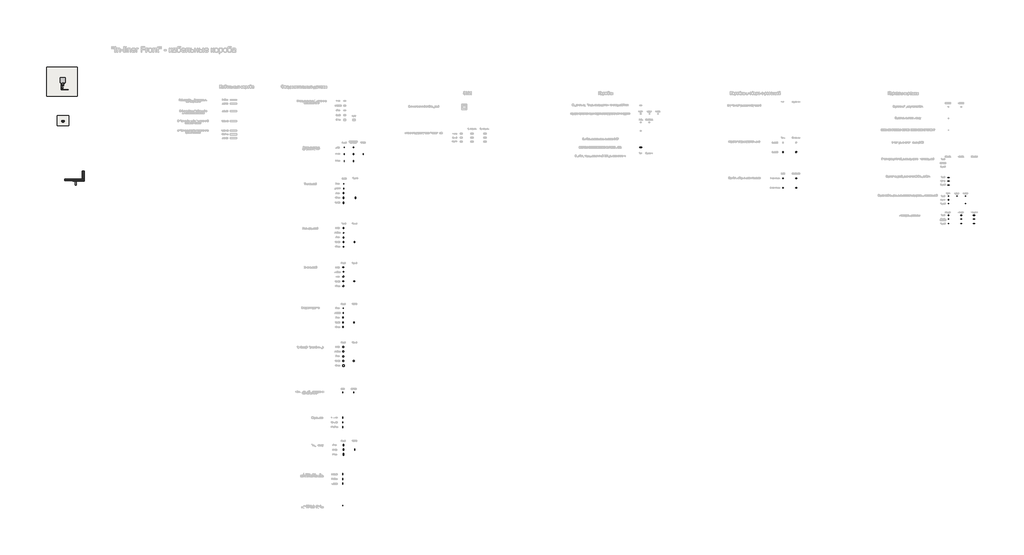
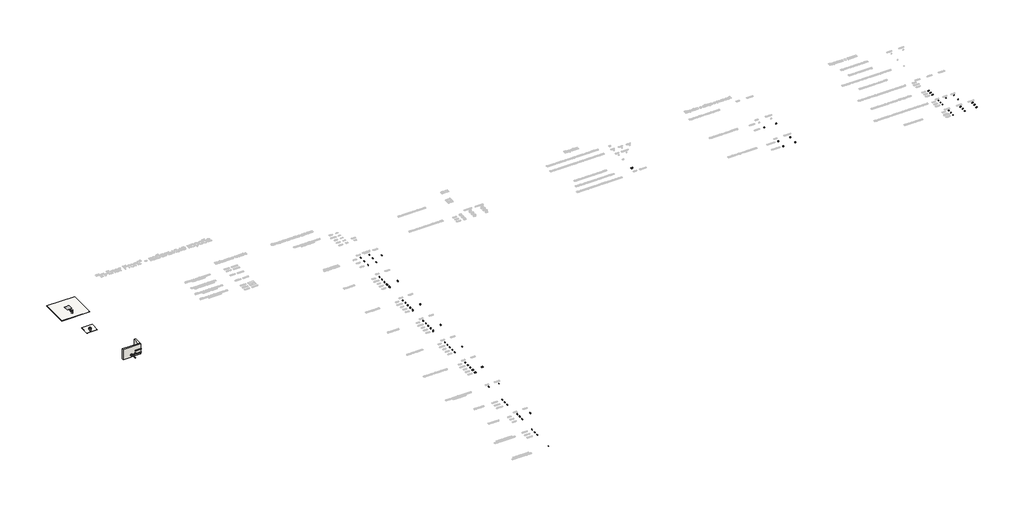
# One storey, part 1 of 48: 56 cable carrier fittings, 56 proxies, 9 cable carrier segments, 2 slabs, 2 walls.
"""IFC4 building model written with IfcOpenShell, lengths in millimetres."""

from ifc_helpers import new_model, si_unit, frame, origin, origin_with_axes, place, context, project, spatial, polyline, outline, extrude, faceted_brep, transform, mapped, element, save
from components import electrical_fixtures_2044470d, electrical_fixtures_432b87b8, electrical_fixtures_e2bc58bc, electrical_fixtures_5537c3a0, electrical_fixtures_9115882a, electrical_fixtures_66c558c8, electrical_fixtures_8c2a11af, electrical_fixtures_6e8f248d, electrical_fixtures_535c511b, electrical_fixtures_a8bc6f34, electrical_fixtures_416891ac, electrical_fixtures_630f2619, electrical_fixtures_1e663ce1, electrical_fixtures_13d03f2a, electrical_fixtures_4c8f32d7, electrical_fixtures_da566cea, electrical_fixtures_8b170cca, electrical_fixtures_24f5e3a6, electrical_fixtures_1d311426, electrical_fixtures_f8ef05b3, proxy_45x45_73356a26, viva_5f314de5, cable_carrier_fitting_01e7652f, cable_carrier_fitting_b5b63672, cable_carrier_fitting_38cc83f5, cable_carrier_fitting_9fc0aa68, cable_carrier_fitting_aa272796, cable_carrier_fitting_2b1ad8d1, cable_carrier_fitting_4f6a67a4, cable_carrier_fitting_6db34369, cable_carrier_fitting_e92eef1a, cable_carrier_fitting_01ff78f4, cable_carrier_fitting_454d221a, cable_carrier_fitting_19747507, cable_carrier_fitting_1869ba21, cable_carrier_fitting_19bac6f4, cable_carrier_fitting_ebdb16b8, cable_carrier_fitting_70ad5371, cable_carrier_fitting_acbd40a6, cable_carrier_fitting_fb1314e3, cable_carrier_fitting_0515663b, cable_carrier_fitting_db63f999, cable_carrier_fitting_5d25004a, cable_carrier_fitting_70b8df70, cable_carrier_fitting_208f4170, cable_carrier_fitting_06068482, cable_carrier_fitting_9637789e, cable_carrier_fitting_83c308d7, cable_carrier_fitting_42b9134f, cable_carrier_fitting_e4d7804b, cable_carrier_fitting_0c0028f7, cable_carrier_fitting_1a116adf, cable_carrier_fitting_51014b7c, cable_carrier_fitting_3fa0959f, cable_carrier_fitting_b9845bec, cable_carrier_fitting_f882d0d2, cable_carrier_fitting_94e5b95d, cable_carrier_fitting_8765ebe6, cable_carrier_fitting_30d2fbf1, cable_carrier_fitting_d3d0ba5e, cable_carrier_fitting_2694b6d5, cable_carrier_fitting_6e8eea5a

model = new_model("IFC4")

# Units and contexts
model_context = context("Model", 3, world=origin())
ifc_project = project(units=[si_unit("LENGTHUNIT", "METRE", prefix="MILLI")], contexts=[model_context])

# Site, building, storey
site = spatial("IfcSite", under=ifc_project)
building = spatial("IfcBuilding", under=site)
storey = spatial("IfcBuildingStorey", under=building, Name="Этаж 01", Elevation=0.0)

# Proxies
placement = place(None, origin())
electrical_fixtures_shape = electrical_fixtures_2044470d(model_context)
element("IfcBuildingElementProxy", 1, Name="КНС_КоробкаМонтажнаяПод4МодуляЭлектроустановочныхИзделийPDD-N120_ILF_DKC : Белая", ObjectType="КНС_КоробкаМонтажнаяПод4МодуляЭлектроустановочныхИзделийPDD-N120_ILF_DKC : Белая", at=placement, inside=storey, context=model_context, shape_type="MappedRepresentation", body=[
    mapped(electrical_fixtures_shape, transform((-15207.2658098, -3998.2892597, 350.0), x_axis=(1.0, 0.0, 0.0), y_axis=(0.0, 1.0, 0.0), z_axis=(0.0, 0.0, 1.0))),
])
electrical_fixtures_2_shape = electrical_fixtures_432b87b8(model_context)
element("IfcBuildingElementProxy", 2, Name="КНС_Каркас6МодулейДляМонтажаЭУИСерииViva_ILF_DKC : Белый", ObjectType="КНС_Каркас6МодулейДляМонтажаЭУИСерииViva_ILF_DKC : Белый", at=placement, inside=storey, context=model_context, shape_type="MappedRepresentation", body=[
    mapped(electrical_fixtures_2_shape, transform((77296.5462784, -3601.6304054, 0.0), x_axis=(1.0, 0.0, 0.0), y_axis=(0.0, 1.0, 0.0), z_axis=(0.0, 0.0, 1.0))),
])
element("IfcBuildingElementProxy", 3, Name="КНС_Каркас6МодулейДляМонтажаЭУИСерииViva_ILF_DKC : Серый", ObjectType="КНС_Каркас6МодулейДляМонтажаЭУИСерииViva_ILF_DKC : Серый", at=placement, inside=storey, context=model_context, shape_type="MappedRepresentation", body=[
    mapped(electrical_fixtures_2_shape, transform((77296.5462784, -3992.3363711, 0.0), x_axis=(1.0, 0.0, 0.0), y_axis=(0.0, 1.0, 0.0), z_axis=(0.0, 0.0, 1.0))),
])
element("IfcBuildingElementProxy", 4, Name="КНС_Каркас6МодулейДляМонтажаЭУИСерииViva_ILF_DKC : Черный", ObjectType="КНС_Каркас6МодулейДляМонтажаЭУИСерииViva_ILF_DKC : Черный", at=placement, inside=storey, context=model_context, shape_type="MappedRepresentation", body=[
    mapped(electrical_fixtures_2_shape, transform((77296.5462784, -4402.3363711, 0.0), x_axis=(1.0, 0.0, 0.0), y_axis=(0.0, 1.0, 0.0), z_axis=(0.0, 0.0, 1.0))),
])
electrical_fixtures_3_shape = electrical_fixtures_e2bc58bc(model_context)
element("IfcBuildingElementProxy", 5, Name="КНС_КаркасНа2МодуляДляМонтажаЭлектроустановочныхИзделий_ILF_DKC : Brava", ObjectType="КНС_КаркасНа2МодуляДляМонтажаЭлектроустановочныхИзделий_ILF_DKC : Brava", at=placement, inside=storey, context=model_context, shape_type="MappedRepresentation", body=[
    mapped(electrical_fixtures_3_shape, transform((79110.5043711, -6391.3361675, 0.0), x_axis=(1.0, 0.0, 0.0), y_axis=(0.0, 1.0, 0.0), z_axis=(0.0, 0.0, 1.0))),
])
electrical_fixtures_4_shape = electrical_fixtures_5537c3a0(model_context)
element("IfcBuildingElementProxy", 6, Name="КНС_КоробкаВСбореСВыключателями_ILF_DKC : Белая", ObjectType="КНС_КоробкаВСбореСВыключателями_ILF_DKC : Белая", at=placement, inside=storey, context=model_context, shape_type="MappedRepresentation", body=[
    mapped(electrical_fixtures_4_shape, transform((59727.9064878, -3699.5059301, 0.0), x_axis=(1.0, 0.0, 0.0), y_axis=(0.0, 1.0, 0.0), z_axis=(0.0, 0.0, 1.0))),
])
element("IfcBuildingElementProxy", 7, Name="КНС_КоробкаВСбореСВыключателями_ILF_DKC : Коричневая", ObjectType="КНС_КоробкаВСбореСВыключателями_ILF_DKC : Коричневая", at=placement, inside=storey, context=model_context, shape_type="MappedRepresentation", body=[
    mapped(electrical_fixtures_4_shape, transform((61127.9064878, -3699.5059301, 0.0), x_axis=(1.0, 0.0, 0.0), y_axis=(0.0, 1.0, 0.0), z_axis=(0.0, 0.0, 1.0))),
])
electrical_fixtures_5_shape = electrical_fixtures_9115882a(model_context)
element("IfcBuildingElementProxy", 8, Name="КНС_КоробкаМонтажнаяПод2МодуляЭлектроустановочныхИзделийPDD-N60_ILF_DKC : Белая", ObjectType="КНС_КоробкаМонтажнаяПод2МодуляЭлектроустановочныхИзделийPDD-N60_ILF_DKC : Белая", at=placement, inside=storey, context=model_context, shape_type="MappedRepresentation", body=[
    mapped(electrical_fixtures_5_shape, transform((-15645.9658098, -3998.2892597, 350.0), x_axis=(1.0, 0.0, 0.0), y_axis=(0.0, 1.0, 0.0), z_axis=(0.0, 0.0, 1.0))),
])
electrical_fixtures_6_shape = electrical_fixtures_66c558c8(model_context)
element("IfcBuildingElementProxy", 9, Name="КНС_РамкаУниверсальная_ILF_DKC : 2 модуля", ObjectType="КНС_РамкаУниверсальная_ILF_DKC : 2 модуля", at=placement, inside=storey, context=model_context, shape_type="MappedRepresentation", body=[
    mapped(electrical_fixtures_6_shape, transform((77304.4662282, -7638.6393082, 0.0), x_axis=(1.0, 0.0, 0.0), y_axis=(0.0, 1.0, 0.0), z_axis=(0.0, 0.0, 1.0))),
])
electrical_fixtures_7_shape = electrical_fixtures_8c2a11af(model_context)
element("IfcBuildingElementProxy", 10, Name="КНС_РамкаУниверсальная_ILF_DKC : 6 модулей", ObjectType="КНС_РамкаУниверсальная_ILF_DKC : 6 модулей", at=placement, inside=storey, context=model_context, shape_type="MappedRepresentation", body=[
    mapped(electrical_fixtures_7_shape, transform((80040.6325444, -8059.0106411, 0.0), x_axis=(1.0, 0.0, 0.0), y_axis=(0.0, 1.0, 0.0), z_axis=(0.0, 0.0, 1.0))),
])
electrical_fixtures_8_shape = electrical_fixtures_6e8f248d(model_context)
element("IfcBuildingElementProxy", 11, Name="Силовые электрические розетки, штекерные, с заземлением и со шторками : Белый", ObjectType="Силовые электрические розетки, штекерные, с заземлением и со шторками : Белый", at=placement, inside=storey, context=model_context, shape_type="MappedRepresentation", body=[
    mapped(electrical_fixtures_8_shape, transform((-15645.9658098, -3958.9892597, 350.0), x_axis=(1.0, 0.0, 0.0), y_axis=(0.0, 1.0, 0.0), z_axis=(0.0, 0.0, 1.0))),
])
element("IfcBuildingElementProxy", 12, Name="Силовые электрические розетки, штекерные, с заземлением и со шторками : Белый", ObjectType="Силовые электрические розетки, штекерные, с заземлением и со шторками : Белый", at=placement, inside=storey, context=model_context, shape_type="MappedRepresentation", body=[
    mapped(electrical_fixtures_8_shape, transform((-15233.5158098, -3958.9892597, 350.0), x_axis=(1.0, 0.0, 0.0), y_axis=(0.0, 1.0, 0.0), z_axis=(0.0, 0.0, 1.0))),
])
electrical_fixtures_9_shape = electrical_fixtures_535c511b(model_context)
element("IfcBuildingElementProxy", 13, Name="Переключатели : 2 модуля", ObjectType="Переключатели : 2 модуля", at=placement, inside=storey, context=model_context, shape_type="MappedRepresentation", body=[
    mapped(electrical_fixtures_9_shape, transform((-15181.7658098, -3970.8892597, 350.0), x_axis=(1.0, 0.0, 0.0), y_axis=(0.0, 1.0, 0.0), z_axis=(0.0, 0.0, 1.0))),
])
electrical_fixtures_10_shape = electrical_fixtures_a8bc6f34(model_context)
element("IfcBuildingElementProxy", 14, Name="Компьютерные розетки : Категория 5e", ObjectType="Компьютерные розетки : Категория 5e", at=placement, inside=storey, context=model_context, shape_type="MappedRepresentation", body=[
    mapped(electrical_fixtures_10_shape, transform((-16797.23976, 2337.6904128, 56.875), x_axis=(1.0, 0.0, 0.0), y_axis=(0.0, 1.0, 0.0), z_axis=(0.0, 0.0, 1.0))),
])
element("IfcBuildingElementProxy", 15, Name="Компьютерные розетки : Категория 5e", ObjectType="Компьютерные розетки : Категория 5e", at=placement, inside=storey, context=model_context, shape_type="MappedRepresentation", body=[
    mapped(electrical_fixtures_10_shape, transform((-16775.23976, 2337.6904128, 56.875), x_axis=(1.0, 0.0, 0.0), y_axis=(0.0, 1.0, 0.0), z_axis=(0.0, 0.0, 1.0))),
])
element("IfcBuildingElementProxy", 16, Name="Компьютерные розетки : Категория 5e", ObjectType="Компьютерные розетки : Категория 5e", at=placement, inside=storey, context=model_context, shape_type="MappedRepresentation", body=[
    mapped(electrical_fixtures_10_shape, transform((-16744.23976, 2337.6904128, 56.875), x_axis=(1.0, 0.0, 0.0), y_axis=(0.0, 1.0, 0.0), z_axis=(0.0, 0.0, 1.0))),
])
element("IfcBuildingElementProxy", 17, Name="Компьютерные розетки : Категория 5e", ObjectType="Компьютерные розетки : Категория 5e", at=placement, inside=storey, context=model_context, shape_type="MappedRepresentation", body=[
    mapped(electrical_fixtures_10_shape, transform((-16722.23976, 2337.6904128, 56.875), x_axis=(1.0, 0.0, 0.0), y_axis=(0.0, 1.0, 0.0), z_axis=(0.0, 0.0, 1.0))),
])
element("IfcBuildingElementProxy", 18, Name="Компьютерные розетки : Категория 5e", ObjectType="Компьютерные розетки : Категория 5e", at=placement, inside=storey, context=model_context, shape_type="MappedRepresentation", body=[
    mapped(electrical_fixtures_10_shape, transform((-16850.23976, 2337.6904128, 56.875), x_axis=(1.0, 0.0, 0.0), y_axis=(0.0, 1.0, 0.0), z_axis=(0.0, 0.0, 1.0))),
])
element("IfcBuildingElementProxy", 19, Name="Компьютерные розетки : Категория 5e", ObjectType="Компьютерные розетки : Категория 5e", at=placement, inside=storey, context=model_context, shape_type="MappedRepresentation", body=[
    mapped(electrical_fixtures_10_shape, transform((-16828.23976, 2337.6904128, 56.875), x_axis=(1.0, 0.0, 0.0), y_axis=(0.0, 1.0, 0.0), z_axis=(0.0, 0.0, 1.0))),
])
electrical_fixtures_11_shape = electrical_fixtures_416891ac(model_context)
element("IfcBuildingElementProxy", 20, Name="Суппорт для монтажа ЭУИ серии Viva на DIN-рейку или монтажную плату1 : 1 модуль 2", ObjectType="Суппорт для монтажа ЭУИ серии Viva на DIN-рейку или монтажную плату1 : 1 модуль 2", at=placement, inside=storey, context=model_context, shape_type="MappedRepresentation", body=[
    mapped(electrical_fixtures_11_shape, transform((-16797.23976, 2325.6904128, 56.875), x_axis=(1.0, 0.0, 0.0), y_axis=(0.0, 1.0, 0.0), z_axis=(0.0, 0.0, 1.0))),
])
element("IfcBuildingElementProxy", 21, Name="Суппорт для монтажа ЭУИ серии Viva на DIN-рейку или монтажную плату1 : 1 модуль 2", ObjectType="Суппорт для монтажа ЭУИ серии Viva на DIN-рейку или монтажную плату1 : 1 модуль 2", at=placement, inside=storey, context=model_context, shape_type="MappedRepresentation", body=[
    mapped(electrical_fixtures_11_shape, transform((-16775.23976, 2325.6904128, 56.875), x_axis=(1.0, 0.0, 0.0), y_axis=(0.0, 1.0, 0.0), z_axis=(0.0, 0.0, 1.0))),
])
element("IfcBuildingElementProxy", 22, Name="Суппорт для монтажа ЭУИ серии Viva на DIN-рейку или монтажную плату1 : 1 модуль 2", ObjectType="Суппорт для монтажа ЭУИ серии Viva на DIN-рейку или монтажную плату1 : 1 модуль 2", at=placement, inside=storey, context=model_context, shape_type="MappedRepresentation", body=[
    mapped(electrical_fixtures_11_shape, transform((-16744.23976, 2325.6904128, 56.875), x_axis=(1.0, 0.0, 0.0), y_axis=(0.0, 1.0, 0.0), z_axis=(0.0, 0.0, 1.0))),
])
element("IfcBuildingElementProxy", 23, Name="Суппорт для монтажа ЭУИ серии Viva на DIN-рейку или монтажную плату1 : 1 модуль 2", ObjectType="Суппорт для монтажа ЭУИ серии Viva на DIN-рейку или монтажную плату1 : 1 модуль 2", at=placement, inside=storey, context=model_context, shape_type="MappedRepresentation", body=[
    mapped(electrical_fixtures_11_shape, transform((-16722.23976, 2325.6904128, 56.875), x_axis=(1.0, 0.0, 0.0), y_axis=(0.0, 1.0, 0.0), z_axis=(0.0, 0.0, 1.0))),
])
element("IfcBuildingElementProxy", 24, Name="Суппорт для монтажа ЭУИ серии Viva на DIN-рейку или монтажную плату1 : 1 модуль 2", ObjectType="Суппорт для монтажа ЭУИ серии Viva на DIN-рейку или монтажную плату1 : 1 модуль 2", at=placement, inside=storey, context=model_context, shape_type="MappedRepresentation", body=[
    mapped(electrical_fixtures_11_shape, transform((-16850.23976, 2325.6904128, 56.875), x_axis=(1.0, 0.0, 0.0), y_axis=(0.0, 1.0, 0.0), z_axis=(0.0, 0.0, 1.0))),
])
element("IfcBuildingElementProxy", 25, Name="Суппорт для монтажа ЭУИ серии Viva на DIN-рейку или монтажную плату1 : 1 модуль 2", ObjectType="Суппорт для монтажа ЭУИ серии Viva на DIN-рейку или монтажную плату1 : 1 модуль 2", at=placement, inside=storey, context=model_context, shape_type="MappedRepresentation", body=[
    mapped(electrical_fixtures_11_shape, transform((-16828.23976, 2325.6904128, 56.875), x_axis=(1.0, 0.0, 0.0), y_axis=(0.0, 1.0, 0.0), z_axis=(0.0, 0.0, 1.0))),
])
element("IfcBuildingElementProxy", 26, Name="Суппорт для монтажа ЭУИ серии Viva на DIN-рейку или монтажную плату1 : 1 модуль 2", ObjectType="Суппорт для монтажа ЭУИ серии Viva на DIN-рейку или монтажную плату1 : 1 модуль 2", at=placement, inside=storey, context=model_context, shape_type="MappedRepresentation", body=[
    mapped(electrical_fixtures_11_shape, transform((-16797.23976, 2325.6904128, 127.875), x_axis=(1.0, 0.0, 0.0), y_axis=(0.0, 1.0, 0.0), z_axis=(0.0, 0.0, 1.0))),
])
element("IfcBuildingElementProxy", 27, Name="Суппорт для монтажа ЭУИ серии Viva на DIN-рейку или монтажную плату1 : 1 модуль 2", ObjectType="Суппорт для монтажа ЭУИ серии Viva на DIN-рейку или монтажную плату1 : 1 модуль 2", at=placement, inside=storey, context=model_context, shape_type="MappedRepresentation", body=[
    mapped(electrical_fixtures_11_shape, transform((-16775.23976, 2325.6904128, 127.875), x_axis=(1.0, 0.0, 0.0), y_axis=(0.0, 1.0, 0.0), z_axis=(0.0, 0.0, 1.0))),
])
element("IfcBuildingElementProxy", 28, Name="Суппорт для монтажа ЭУИ серии Viva на DIN-рейку или монтажную плату1 : 1 модуль 2", ObjectType="Суппорт для монтажа ЭУИ серии Viva на DIN-рейку или монтажную плату1 : 1 модуль 2", at=placement, inside=storey, context=model_context, shape_type="MappedRepresentation", body=[
    mapped(electrical_fixtures_11_shape, transform((-16744.23976, 2325.6904128, 127.875), x_axis=(1.0, 0.0, 0.0), y_axis=(0.0, 1.0, 0.0), z_axis=(0.0, 0.0, 1.0))),
])
electrical_fixtures_12_shape = electrical_fixtures_630f2619(model_context)
element("IfcBuildingElementProxy", 29, Name="Компьютерные розетки : Категория 5e", ObjectType="Компьютерные розетки : Категория 5e", at=placement, inside=storey, context=model_context, shape_type="MappedRepresentation", body=[
    mapped(electrical_fixtures_12_shape, transform((-16797.23976, 2337.6904128, 127.875), x_axis=(1.0, 0.0, 0.0), y_axis=(0.0, 1.0, 0.0), z_axis=(0.0, 0.0, 1.0))),
])
element("IfcBuildingElementProxy", 30, Name="Компьютерные розетки : Категория 5e", ObjectType="Компьютерные розетки : Категория 5e", at=placement, inside=storey, context=model_context, shape_type="MappedRepresentation", body=[
    mapped(electrical_fixtures_12_shape, transform((-16775.23976, 2337.6904128, 127.875), x_axis=(1.0, 0.0, 0.0), y_axis=(0.0, 1.0, 0.0), z_axis=(0.0, 0.0, 1.0))),
])
element("IfcBuildingElementProxy", 31, Name="Компьютерные розетки : Категория 5e", ObjectType="Компьютерные розетки : Категория 5e", at=placement, inside=storey, context=model_context, shape_type="MappedRepresentation", body=[
    mapped(electrical_fixtures_12_shape, transform((-16744.23976, 2337.6904128, 127.875), x_axis=(1.0, 0.0, 0.0), y_axis=(0.0, 1.0, 0.0), z_axis=(0.0, 0.0, 1.0))),
])
electrical_fixtures_13_shape = electrical_fixtures_1e663ce1(model_context)
element("IfcBuildingElementProxy", 32, Name="КНС_КоробкаРаспределительнаяНастеннаяBrava_ILF_DKC : Коробка распределительная настенная Brava_ILF_DKC", ObjectType="КНС_КоробкаРаспределительнаяНастеннаяBrava_ILF_DKC : Коробка распределительная настенная Brava_ILF_DKC", at=placement, inside=storey, context=model_context, shape_type="MappedRepresentation", body=[
    mapped(electrical_fixtures_13_shape, transform((44616.8932526, -396.8833124, 0.0), x_axis=(1.0, 0.0, 0.0), y_axis=(0.0, 1.0, 0.0), z_axis=(0.0, 0.0, 1.0))),
])
electrical_fixtures_14_shape = electrical_fixtures_13d03f2a(model_context)
element("IfcBuildingElementProxy", 33, Name="КНС_КоробкаВСбореСРозеткойRJ-45_ILF_DKC : Коричневая", ObjectType="КНС_КоробкаВСбореСРозеткойRJ-45_ILF_DKC : Коричневая", at=placement, inside=storey, context=model_context, shape_type="MappedRepresentation", body=[
    mapped(electrical_fixtures_14_shape, transform((61127.9064878, -880.0316513, 0.0), x_axis=(1.0, 0.0, 0.0), y_axis=(0.0, 1.0, 0.0), z_axis=(0.0, 0.0, 1.0))),
])
element("IfcBuildingElementProxy", 34, Name="КНС_КоробкаВСбореСРозеткойRJ-45_ILF_DKC : Белая", ObjectType="КНС_КоробкаВСбореСРозеткойRJ-45_ILF_DKC : Белая", at=placement, inside=storey, context=model_context, shape_type="MappedRepresentation", body=[
    mapped(electrical_fixtures_14_shape, transform((59727.9064878, -880.0316513, 0.0), x_axis=(1.0, 0.0, 0.0), y_axis=(0.0, 1.0, 0.0), z_axis=(0.0, 0.0, 1.0))),
])
element("IfcBuildingElementProxy", 35, Name="КНС_КоробкаВСбореСВыключателями_ILF_DKC : Коричневая", ObjectType="КНС_КоробкаВСбореСВыключателями_ILF_DKC : Коричневая", at=placement, inside=storey, context=model_context, shape_type="MappedRepresentation", body=[
    mapped(electrical_fixtures_4_shape, transform((61127.9064878, -4692.4294885, 0.0), x_axis=(1.0, 0.0, 0.0), y_axis=(0.0, 1.0, 0.0), z_axis=(0.0, 0.0, 1.0))),
])
element("IfcBuildingElementProxy", 36, Name="КНС_КоробкаВСбореСВыключателями_ILF_DKC : Белая", ObjectType="КНС_КоробкаВСбореСВыключателями_ILF_DKC : Белая", at=placement, inside=storey, context=model_context, shape_type="MappedRepresentation", body=[
    mapped(electrical_fixtures_4_shape, transform((59727.9064878, -4692.4294885, 0.0), x_axis=(1.0, 0.0, 0.0), y_axis=(0.0, 1.0, 0.0), z_axis=(0.0, 0.0, 1.0))),
])
element("IfcBuildingElementProxy", 37, Name="КНС_КаркасНа2МодуляДляМонтажаЭлектроустановочныхИзделий_ILF_DKC : Brava", ObjectType="КНС_КаркасНа2МодуляДляМонтажаЭлектроустановочныхИзделий_ILF_DKC : Brava", at=placement, inside=storey, context=model_context, shape_type="MappedRepresentation", body=[
    mapped(electrical_fixtures_3_shape, transform((79110.5043711, -5568.3806617, 0.0), x_axis=(1.0, 0.0, 0.0), y_axis=(0.0, 1.0, 0.0), z_axis=(0.0, 0.0, 1.0))),
])
electrical_fixtures_15_shape = electrical_fixtures_4c8f32d7(model_context)
element("IfcBuildingElementProxy", 38, Name="КНС_РамкаУниверсальная_ILF_DKC : 2 модуля", ObjectType="КНС_РамкаУниверсальная_ILF_DKC : 2 модуля", at=placement, inside=storey, context=model_context, shape_type="MappedRepresentation", body=[
    mapped(electrical_fixtures_15_shape, transform((77304.4662282, -8059.0106411, 0.0), x_axis=(1.0, 0.0, 0.0), y_axis=(0.0, 1.0, 0.0), z_axis=(0.0, 0.0, 1.0))),
])
element("IfcBuildingElementProxy", 39, Name="КНС_РамкаУниверсальная_ILF_DKC : 2 модуля", ObjectType="КНС_РамкаУниверсальная_ILF_DKC : 2 модуля", at=placement, inside=storey, context=model_context, shape_type="MappedRepresentation", body=[
    mapped(electrical_fixtures_15_shape, transform((77304.4662282, -8514.4303667, 0.0), x_axis=(1.0, 0.0, 0.0), y_axis=(0.0, 1.0, 0.0), z_axis=(0.0, 0.0, 1.0))),
])
electrical_fixtures_16_shape = electrical_fixtures_da566cea(model_context)
element("IfcBuildingElementProxy", 40, Name="КНС_РамкаУниверсальная_ILF_DKC : 4 модуля", ObjectType="КНС_РамкаУниверсальная_ILF_DKC : 4 модуля", at=placement, inside=storey, context=model_context, shape_type="MappedRepresentation", body=[
    mapped(electrical_fixtures_16_shape, transform((78674.7265173, -7638.6393082, 0.0), x_axis=(1.0, 0.0, 0.0), y_axis=(0.0, 1.0, 0.0), z_axis=(0.0, 0.0, 1.0))),
])
electrical_fixtures_17_shape = electrical_fixtures_8b170cca(model_context)
element("IfcBuildingElementProxy", 41, Name="КНС_РамкаУниверсальная_ILF_DKC : 4 модуля", ObjectType="КНС_РамкаУниверсальная_ILF_DKC : 4 модуля", at=placement, inside=storey, context=model_context, shape_type="MappedRepresentation", body=[
    mapped(electrical_fixtures_17_shape, transform((78674.7265173, -8059.0106411, 0.0), x_axis=(1.0, 0.0, 0.0), y_axis=(0.0, 1.0, 0.0), z_axis=(0.0, 0.0, 1.0))),
])
element("IfcBuildingElementProxy", 42, Name="КНС_РамкаУниверсальная_ILF_DKC : 4 модуля", ObjectType="КНС_РамкаУниверсальная_ILF_DKC : 4 модуля", at=placement, inside=storey, context=model_context, shape_type="MappedRepresentation", body=[
    mapped(electrical_fixtures_17_shape, transform((78674.7265173, -8514.4303667, 0.0), x_axis=(1.0, 0.0, 0.0), y_axis=(0.0, 1.0, 0.0), z_axis=(0.0, 0.0, 1.0))),
])
electrical_fixtures_18_shape = electrical_fixtures_24f5e3a6(model_context)
element("IfcBuildingElementProxy", 43, Name="КНС_РамкаУниверсальная_ILF_DKC : 6 модулей", ObjectType="КНС_РамкаУниверсальная_ILF_DKC : 6 модулей", at=placement, inside=storey, context=model_context, shape_type="MappedRepresentation", body=[
    mapped(electrical_fixtures_18_shape, transform((80040.6325444, -7638.6393082, 0.0), x_axis=(1.0, 0.0, 0.0), y_axis=(0.0, 1.0, 0.0), z_axis=(0.0, 0.0, 1.0))),
])
element("IfcBuildingElementProxy", 44, Name="КНС_РамкаУниверсальная_ILF_DKC : 6 модулей", ObjectType="КНС_РамкаУниверсальная_ILF_DKC : 6 модулей", at=placement, inside=storey, context=model_context, shape_type="MappedRepresentation", body=[
    mapped(electrical_fixtures_7_shape, transform((80040.6325444, -8514.4303667, 0.0), x_axis=(1.0, 0.0, 0.0), y_axis=(0.0, 1.0, 0.0), z_axis=(0.0, 0.0, 1.0))),
])
electrical_fixtures_19_shape = electrical_fixtures_1d311426(model_context)
element("IfcBuildingElementProxy", 45, Name="КНС_НапольнаяДвухсторонняяБашенкаBUS_ILF_DKC : Напольная двухсторонняя башенка BUS_ILF_DKC", ObjectType="КНС_НапольнаяДвухсторонняяБашенкаBUS_ILF_DKC : Напольная двухсторонняя башенка BUS_ILF_DKC", at=placement, inside=storey, context=model_context, shape_type="MappedRepresentation", body=[
    mapped(electrical_fixtures_19_shape, transform((-16785.73976, 2366.6904128, 0.0), x_axis=(1.0, 0.0, 0.0), y_axis=(0.0, 1.0, 0.0), z_axis=(0.0, 0.0, 1.0))),
])
electrical_fixtures_20_shape = electrical_fixtures_f8ef05b3(model_context)
element("IfcBuildingElementProxy", 46, Name="Вертикальное расширение напольной башенки BUS : Вертикальное расширение напольной башенки BUS", ObjectType="Вертикальное расширение напольной башенки BUS : Вертикальное расширение напольной башенки BUS", at=placement, inside=storey, context=model_context, shape_type="MappedRepresentation", body=[
    mapped(electrical_fixtures_20_shape, transform((-16785.73976, 2366.6904128, 91.5), x_axis=(1.0, 0.0, 0.0), y_axis=(0.0, 1.0, 0.0), z_axis=(0.0, 0.0, 1.0))),
])
proxy_45x45_shape = proxy_45x45_73356a26(model_context)
element("IfcBuildingElementProxy", 47, Name="КНС_КаркасНа2МодуляДляМонтажаЭлектроустановочныхИзделий_ILF_DKC : 45x45", ObjectType="КНС_КаркасНа2МодуляДляМонтажаЭлектроустановочныхИзделий_ILF_DKC : 45x45", at=placement, inside=storey, context=model_context, shape_type="MappedRepresentation", body=[
    mapped(proxy_45x45_shape, transform((-16839.23976, 2332.6904128, 56.875), x_axis=(1.0, 0.0, 0.0), y_axis=(0.0, 1.0, 0.0), z_axis=(0.0, 0.0, 1.0))),
])
element("IfcBuildingElementProxy", 48, Name="КНС_КаркасНа2МодуляДляМонтажаЭлектроустановочныхИзделий_ILF_DKC : 45x45", ObjectType="КНС_КаркасНа2МодуляДляМонтажаЭлектроустановочныхИзделий_ILF_DKC : 45x45", at=placement, inside=storey, context=model_context, shape_type="MappedRepresentation", body=[
    mapped(proxy_45x45_shape, transform((-16786.23976, 2332.6904128, 56.875), x_axis=(1.0, 0.0, 0.0), y_axis=(0.0, 1.0, 0.0), z_axis=(0.0, 0.0, 1.0))),
])
element("IfcBuildingElementProxy", 49, Name="КНС_КаркасНа2МодуляДляМонтажаЭлектроустановочныхИзделий_ILF_DKC : 45x45", ObjectType="КНС_КаркасНа2МодуляДляМонтажаЭлектроустановочныхИзделий_ILF_DKC : 45x45", at=placement, inside=storey, context=model_context, shape_type="MappedRepresentation", body=[
    mapped(proxy_45x45_shape, transform((-16733.23976, 2332.6904128, 56.875), x_axis=(1.0, 0.0, 0.0), y_axis=(0.0, 1.0, 0.0), z_axis=(0.0, 0.0, 1.0))),
])
element("IfcBuildingElementProxy", 50, Name="КНС_КаркасНа2МодуляДляМонтажаЭлектроустановочныхИзделий_ILF_DKC : 45x45", ObjectType="КНС_КаркасНа2МодуляДляМонтажаЭлектроустановочныхИзделий_ILF_DKC : 45x45", at=placement, inside=storey, context=model_context, shape_type="MappedRepresentation", body=[
    mapped(proxy_45x45_shape, transform((78196.5462784, -5568.3806617, 0.0), x_axis=(1.0, 0.0, 0.0), y_axis=(0.0, 1.0, 0.0), z_axis=(0.0, 0.0, 1.0))),
])
viva_shape = viva_5f314de5(model_context)
element("IfcBuildingElementProxy", 51, Name="КНС_КаркасНа2МодуляДляМонтажаЭлектроустановочныхИзделий_ILF_DKC : Viva", ObjectType="КНС_КаркасНа2МодуляДляМонтажаЭлектроустановочныхИзделий_ILF_DKC : Viva", at=placement, inside=storey, context=model_context, shape_type="MappedRepresentation", body=[
    mapped(viva_shape, transform((-16839.23976, 2332.6904128, 127.875), x_axis=(1.0, 0.0, 0.0), y_axis=(0.0, 1.0, 0.0), z_axis=(0.0, 0.0, 1.0))),
])
element("IfcBuildingElementProxy", 52, Name="КНС_КаркасНа2МодуляДляМонтажаЭлектроустановочныхИзделий_ILF_DKC : Viva", ObjectType="КНС_КаркасНа2МодуляДляМонтажаЭлектроустановочныхИзделий_ILF_DKC : Viva", at=placement, inside=storey, context=model_context, shape_type="MappedRepresentation", body=[
    mapped(viva_shape, transform((-16786.23976, 2332.6904128, 127.875), x_axis=(1.0, 0.0, 0.0), y_axis=(0.0, 1.0, 0.0), z_axis=(0.0, 0.0, 1.0))),
])
element("IfcBuildingElementProxy", 53, Name="КНС_КаркасНа2МодуляДляМонтажаЭлектроустановочныхИзделий_ILF_DKC : Viva", ObjectType="КНС_КаркасНа2МодуляДляМонтажаЭлектроустановочныхИзделий_ILF_DKC : Viva", at=placement, inside=storey, context=model_context, shape_type="MappedRepresentation", body=[
    mapped(viva_shape, transform((-16733.23976, 2332.6904128, 127.875), x_axis=(1.0, 0.0, 0.0), y_axis=(0.0, 1.0, 0.0), z_axis=(0.0, 0.0, 1.0))),
])
element("IfcBuildingElementProxy", 54, Name="КНС_КаркасНа2МодуляДляМонтажаЭлектроустановочныхИзделий_ILF_DKC : Viva", ObjectType="КНС_КаркасНа2МодуляДляМонтажаЭлектроустановочныхИзделий_ILF_DKC : Viva", at=placement, inside=storey, context=model_context, shape_type="MappedRepresentation", body=[
    mapped(viva_shape, transform((77296.5462784, -6391.3361675, 0.0), x_axis=(1.0, 0.0, 0.0), y_axis=(0.0, 1.0, 0.0), z_axis=(0.0, 0.0, 1.0))),
])
element("IfcBuildingElementProxy", 55, Name="КНС_КаркасНа2МодуляДляМонтажаЭлектроустановочныхИзделий_ILF_DKC : Viva", ObjectType="КНС_КаркасНа2МодуляДляМонтажаЭлектроустановочныхИзделий_ILF_DKC : Viva", at=placement, inside=storey, context=model_context, shape_type="MappedRepresentation", body=[
    mapped(viva_shape, transform((77296.5462784, -5568.3806617, 0.0), x_axis=(1.0, 0.0, 0.0), y_axis=(0.0, 1.0, 0.0), z_axis=(0.0, 0.0, 1.0))),
])
element("IfcBuildingElementProxy", 56, Name="КНС_КаркасНа2МодуляДляМонтажаЭлектроустановочныхИзделий_ILF_DKC : Viva", ObjectType="КНС_КаркасНа2МодуляДляМонтажаЭлектроустановочныхИзделий_ILF_DKC : Viva", at=placement, inside=storey, context=model_context, shape_type="MappedRepresentation", body=[
    mapped(viva_shape, transform((77296.5462784, -5986.3898075, 0.0), x_axis=(1.0, 0.0, 0.0), y_axis=(0.0, 1.0, 0.0), z_axis=(0.0, 0.0, 1.0))),
])

# Cable carrier fittings
cable_carrier_fitting_shape = cable_carrier_fitting_01e7652f(model_context)
element("IfcCableCarrierFitting", 57, ObjectType="КНС_АдаптерДляВводаКороба70×22ВКоробки_ILF_DKC : Адаптер", at=placement, inside=storey, context=model_context, shape_type="MappedRepresentation", body=[
    mapped(cable_carrier_fitting_shape, transform((12947.2540135, -38499.0852323, 0.0), x_axis=(1.0, 0.0, 0.0), y_axis=(0.0, 1.0, 0.0), z_axis=(0.0, 0.0, 1.0))),
])
cable_carrier_fitting_2_shape = cable_carrier_fitting_b5b63672(model_context)
element("IfcCableCarrierFitting", 58, ObjectType="КНС_АдаптерДляВводаКоробовВКоробкиBrava_ILF_DKC : 70х22", at=placement, inside=storey, context=model_context, shape_type="MappedRepresentation", body=[
    mapped(cable_carrier_fitting_2_shape, transform((12955.8857016, -35684.5301822, 0.0), x_axis=(1.0, 0.0, 0.0), y_axis=(0.0, 1.0, 0.0), z_axis=(0.0, 0.0, 1.0))),
])
element("IfcCableCarrierFitting", 59, ObjectType="КНС_АдаптерДляВводаКоробовВКоробкиBrava_ILF_DKC : 90х25", at=placement, inside=storey, context=model_context, shape_type="MappedRepresentation", body=[
    mapped(cable_carrier_fitting_2_shape, transform((12955.8857016, -36187.624376, 0.0), x_axis=(1.0, 0.0, 0.0), y_axis=(0.0, 1.0, 0.0), z_axis=(0.0, 0.0, 1.0))),
])
element("IfcCableCarrierFitting", 60, ObjectType="КНС_АдаптерДляВводаКоробовВКоробкиBrava_ILF_DKC : 50х20, 50/2х20", at=placement, inside=storey, context=model_context, shape_type="MappedRepresentation", body=[
    mapped(cable_carrier_fitting_2_shape, transform((12955.8857016, -35169.5141452, 0.0), x_axis=(1.0, 0.0, 0.0), y_axis=(0.0, 1.0, 0.0), z_axis=(0.0, 0.0, 1.0))),
])
cable_carrier_fitting_3_shape = cable_carrier_fitting_38cc83f5(model_context)
element("IfcCableCarrierFitting", 61, ObjectType="КНС_ОтводОтКоробовПлинтусногоТипаККоробкам_ILF_DKC : Отвод узкий к коробкам", at=placement, inside=storey, context=model_context, shape_type="MappedRepresentation", body=[
    mapped(cable_carrier_fitting_3_shape, transform((12951.1190287, -26484.236112, 0.0), x_axis=(1.0, 0.0, 0.0), y_axis=(0.0, 1.0, 0.0), z_axis=(0.0, 0.0, 1.0))),
])
cable_carrier_fitting_4_shape = cable_carrier_fitting_9fc0aa68(model_context)
element("IfcCableCarrierFitting", 62, ObjectType="КНС_ВводВСтену_ILF_DKC : Белый", at=placement, inside=storey, context=model_context, shape_type="MappedRepresentation", body=[
    mapped(cable_carrier_fitting_4_shape, transform((13029.9407067, -32084.7913554, 0.0), x_axis=(1.0, 0.0, 0.0), y_axis=(0.0, 1.0, 0.0), z_axis=(0.0, 0.0, 1.0))),
])
cable_carrier_fitting_5_shape = cable_carrier_fitting_aa272796(model_context)
element("IfcCableCarrierFitting", 63, ObjectType="КНС_Переходник_ILF_DKC : Переходник_ILF_DKC", at=placement, inside=storey, context=model_context, shape_type="MappedRepresentation", body=[
    mapped(cable_carrier_fitting_5_shape, transform((12963.6576348, -29151.0390094, 0.0), x_axis=(1.0, 0.0, 0.0), y_axis=(0.0, 1.0, 0.0), z_axis=(0.0, 0.0, 1.0))),
])
element("IfcCableCarrierFitting", 64, ObjectType="КНС_Переходник_ILF_DKC : Переходник_ILF_DKC", at=placement, inside=storey, context=model_context, shape_type="MappedRepresentation", body=[
    mapped(cable_carrier_fitting_5_shape, transform((12963.6576348, -30151.0390094, 0.0), x_axis=(1.0, 0.0, 0.0), y_axis=(0.0, 1.0, 0.0), z_axis=(0.0, 0.0, 1.0))),
])
cable_carrier_fitting_6_shape = cable_carrier_fitting_2b1ad8d1(model_context)
element("IfcCableCarrierFitting", 65, ObjectType="КНС_НакладкаНаСтыкПрофилейКоробов_ILF_DKC : Белый", at=placement, inside=storey, context=model_context, shape_type="MappedRepresentation", body=[
    mapped(cable_carrier_fitting_6_shape, transform((13103.6289355, -1107.8779676, 0.0), x_axis=(1.0, 0.0, 0.0), y_axis=(0.0, 1.0, 0.0), z_axis=(0.0, 0.0, 1.0))),
])
element("IfcCableCarrierFitting", 66, ObjectType="КНС_НакладкаНаСтыкПрофилейКоробов_ILF_DKC : Серебристый металлик", at=placement, inside=storey, context=model_context, shape_type="MappedRepresentation", body=[
    mapped(cable_carrier_fitting_6_shape, transform((14083.6289355, -1107.8779676, 0.0), x_axis=(1.0, 0.0, 0.0), y_axis=(0.0, 1.0, 0.0), z_axis=(0.0, 0.0, 1.0))),
])
element("IfcCableCarrierFitting", 67, ObjectType="КНС_НакладкаНаСтыкПрофилейКоробов_ILF_DKC : Черный", at=placement, inside=storey, context=model_context, shape_type="MappedRepresentation", body=[
    mapped(cable_carrier_fitting_6_shape, transform((15123.6289355, -1107.8779676, 0.0), x_axis=(1.0, 0.0, 0.0), y_axis=(0.0, 1.0, 0.0), z_axis=(0.0, 0.0, 1.0))),
])
cable_carrier_fitting_7_shape = cable_carrier_fitting_4f6a67a4(model_context)
element("IfcCableCarrierFitting", 68, ObjectType="КНС_УголВнутренний_ILF_DKC : Белый", at=placement, inside=storey, context=model_context, shape_type="MappedRepresentation", body=[
    mapped(cable_carrier_fitting_7_shape, transform((-15407.2658098, -3985.5892597, 100.0), x_axis=(0.0, 1.0, 0.0), y_axis=(0.0, 0.0, 1.0), z_axis=(1.0, 0.0, 0.0))),
])
cable_carrier_fitting_8_shape = cable_carrier_fitting_6db34369(model_context)
element("IfcCableCarrierFitting", 69, ObjectType="КНС_УголВнутренний_ILF_DKC : Белый", at=placement, inside=storey, context=model_context, shape_type="MappedRepresentation", body=[
    mapped(cable_carrier_fitting_8_shape, transform((13049.1175194, -9512.4303068, 0.0), x_axis=(1.0, 0.0, 0.0), y_axis=(0.0, 1.0, 0.0), z_axis=(0.0, 0.0, 1.0))),
])
cable_carrier_fitting_9_shape = cable_carrier_fitting_e92eef1a(model_context)
element("IfcCableCarrierFitting", 70, ObjectType="КНС_УголВнутренний_ILF_DKC : Белый", at=placement, inside=storey, context=model_context, shape_type="MappedRepresentation", body=[
    mapped(cable_carrier_fitting_9_shape, transform((13049.1175194, -10012.4303068, 0.0), x_axis=(1.0, 0.0, 0.0), y_axis=(0.0, 1.0, 0.0), z_axis=(0.0, 0.0, 1.0))),
])
cable_carrier_fitting_10_shape = cable_carrier_fitting_01ff78f4(model_context)
element("IfcCableCarrierFitting", 71, ObjectType="КНС_УголВнутренний_ILF_DKC : Белый", at=placement, inside=storey, context=model_context, shape_type="MappedRepresentation", body=[
    mapped(cable_carrier_fitting_10_shape, transform((13049.1175194, -10512.4303068, 0.0), x_axis=(1.0, 0.0, 0.0), y_axis=(0.0, 1.0, 0.0), z_axis=(0.0, 0.0, 1.0))),
])
cable_carrier_fitting_11_shape = cable_carrier_fitting_454d221a(model_context)
element("IfcCableCarrierFitting", 72, ObjectType="КНС_УголВнутренний_ILF_DKC : Белый", at=placement, inside=storey, context=model_context, shape_type="MappedRepresentation", body=[
    mapped(cable_carrier_fitting_11_shape, transform((13049.1175194, -11012.4303068, 0.0), x_axis=(1.0, 0.0, 0.0), y_axis=(0.0, 1.0, 0.0), z_axis=(0.0, 0.0, 1.0))),
])
element("IfcCableCarrierFitting", 73, ObjectType="КНС_УголВнутренний_ILF_DKC : Черный", at=placement, inside=storey, context=model_context, shape_type="MappedRepresentation", body=[
    mapped(cable_carrier_fitting_10_shape, transform((14215.9370915, -10512.4303068, 0.0), x_axis=(1.0, 0.0, 0.0), y_axis=(0.0, 1.0, 0.0), z_axis=(0.0, 0.0, 1.0))),
])
cable_carrier_fitting_12_shape = cable_carrier_fitting_19747507(model_context)
element("IfcCableCarrierFitting", 74, ObjectType="КНС_УголПлоский_ILF_DKC : Угол плоский белый", at=placement, inside=storey, context=model_context, shape_type="MappedRepresentation", body=[
    mapped(cable_carrier_fitting_12_shape, transform((13044.748292, -4278.5830382, 0.0), x_axis=(0.0, 1.0, 0.0), y_axis=(0.0, 0.0, -1.0), z_axis=(-1.0, 0.0, 0.0))),
])
cable_carrier_fitting_13_shape = cable_carrier_fitting_1869ba21(model_context)
element("IfcCableCarrierFitting", 75, ObjectType="КНС_УголПлоский_ILF_DKC : Угол плоский белый", at=placement, inside=storey, context=model_context, shape_type="MappedRepresentation", body=[
    mapped(cable_carrier_fitting_13_shape, transform((13044.748292, -4778.5830382, 0.0), x_axis=(0.0, 1.0, 0.0), y_axis=(0.0, 0.0, -1.0), z_axis=(-1.0, 0.0, 0.0))),
])
cable_carrier_fitting_14_shape = cable_carrier_fitting_19bac6f4(model_context)
element("IfcCableCarrierFitting", 76, ObjectType="КНС_УголПлоский_ILF_DKC : Угол плоский белый", at=placement, inside=storey, context=model_context, shape_type="MappedRepresentation", body=[
    mapped(cable_carrier_fitting_14_shape, transform((13044.748292, -5278.5830382, 0.0), x_axis=(0.0, 1.0, 0.0), y_axis=(0.0, 0.0, -1.0), z_axis=(-1.0, 0.0, 0.0))),
])
cable_carrier_fitting_15_shape = cable_carrier_fitting_ebdb16b8(model_context)
element("IfcCableCarrierFitting", 77, ObjectType="КНС_УголПлоский_ILF_DKC : Угол плоский белый", at=placement, inside=storey, context=model_context, shape_type="MappedRepresentation", body=[
    mapped(cable_carrier_fitting_15_shape, transform((13044.748292, -5778.5830382, 0.0), x_axis=(0.0, 1.0, 0.0), y_axis=(0.0, 0.0, -1.0), z_axis=(-1.0, 0.0, 0.0))),
])
element("IfcCableCarrierFitting", 78, ObjectType="КНС_УголПлоский_ILF_DKC : Угол плоский черный", at=placement, inside=storey, context=model_context, shape_type="MappedRepresentation", body=[
    mapped(cable_carrier_fitting_15_shape, transform((14284.748292, -5778.5830382, 0.0), x_axis=(0.0, 1.0, 0.0), y_axis=(0.0, 0.0, -1.0), z_axis=(-1.0, 0.0, 0.0))),
])
cable_carrier_fitting_16_shape = cable_carrier_fitting_70ad5371(model_context)
element("IfcCableCarrierFitting", 79, ObjectType="КНС_УголПлоский_ILF_DKC : Угол плоский белый", at=placement, inside=storey, context=model_context, shape_type="MappedRepresentation", body=[
    mapped(cable_carrier_fitting_16_shape, transform((13044.748292, -6278.5830382, 0.0), x_axis=(0.0, 1.0, 0.0), y_axis=(0.0, 0.0, -1.0), z_axis=(-1.0, 0.0, 0.0))),
])
cable_carrier_fitting_17_shape = cable_carrier_fitting_acbd40a6(model_context)
element("IfcCableCarrierFitting", 80, ObjectType="КНС_НакладкаНаСтыкПрофилейКоробов_ILF_DKC : Белый", at=placement, inside=storey, context=model_context, shape_type="MappedRepresentation", body=[
    mapped(cable_carrier_fitting_17_shape, transform((13103.6289355, -407.8779676, 0.0), x_axis=(1.0, 0.0, 0.0), y_axis=(0.0, 1.0, 0.0), z_axis=(0.0, 0.0, 1.0))),
])
element("IfcCableCarrierFitting", 81, ObjectType="КНС_НакладкаНаСтыкПрофилейКоробов_ILF_DKC : Серебристый металлик", at=placement, inside=storey, context=model_context, shape_type="MappedRepresentation", body=[
    mapped(cable_carrier_fitting_17_shape, transform((14083.6289355, -407.8779676, 0.0), x_axis=(1.0, 0.0, 0.0), y_axis=(0.0, 1.0, 0.0), z_axis=(0.0, 0.0, 1.0))),
])
cable_carrier_fitting_18_shape = cable_carrier_fitting_fb1314e3(model_context)
element("IfcCableCarrierFitting", 82, ObjectType="КНС_НакладкаНаСтыкПрофилейКоробов_ILF_DKC : Белый", at=placement, inside=storey, context=model_context, shape_type="MappedRepresentation", body=[
    mapped(cable_carrier_fitting_18_shape, transform((13103.6289355, -1867.8779676, 0.0), x_axis=(1.0, 0.0, 0.0), y_axis=(0.0, 1.0, 0.0), z_axis=(0.0, 0.0, 1.0))),
])
element("IfcCableCarrierFitting", 83, ObjectType="КНС_НакладкаНаСтыкПрофилейКоробов_ILF_DKC : Серебристый металлик", at=placement, inside=storey, context=model_context, shape_type="MappedRepresentation", body=[
    mapped(cable_carrier_fitting_18_shape, transform((14083.6289355, -1867.8779676, 0.0), x_axis=(1.0, 0.0, 0.0), y_axis=(0.0, 1.0, 0.0), z_axis=(0.0, 0.0, 1.0))),
])
cable_carrier_fitting_19_shape = cable_carrier_fitting_0515663b(model_context)
element("IfcCableCarrierFitting", 84, ObjectType="КНС_УголВнешний_ILF_DKC : Белый", at=placement, inside=storey, context=model_context, shape_type="MappedRepresentation", body=[
    mapped(cable_carrier_fitting_19_shape, transform((-14508.4658098, -3985.3892597, 241.5), x_axis=(1.0, 0.0, 0.0), y_axis=(0.0, -1.0, 0.0), z_axis=(0.0, 0.0, -1.0))),
])
element("IfcCableCarrierFitting", 85, ObjectType="КНС_УголВнешний_ILF_DKC : Белый", at=placement, inside=storey, context=model_context, shape_type="MappedRepresentation", body=[
    mapped(cable_carrier_fitting_19_shape, transform((-14508.4658098, -3985.3892597, 646.5), x_axis=(1.0, 0.0, 0.0), y_axis=(0.0, -1.0, 0.0), z_axis=(0.0, 0.0, -1.0))),
])
cable_carrier_fitting_20_shape = cable_carrier_fitting_db63f999(model_context)
element("IfcCableCarrierFitting", 86, ObjectType="КНС_УголВнешний_ILF_DKC : Белый", at=placement, inside=storey, context=model_context, shape_type="MappedRepresentation", body=[
    mapped(cable_carrier_fitting_20_shape, transform((13017.1547741, -13665.7198789, 0.0), x_axis=(1.0, 0.0, 0.0), y_axis=(0.0, 1.0, 0.0), z_axis=(0.0, 0.0, 1.0))),
])
cable_carrier_fitting_21_shape = cable_carrier_fitting_5d25004a(model_context)
element("IfcCableCarrierFitting", 87, ObjectType="КНС_УголВнешний_ILF_DKC : Белый", at=placement, inside=storey, context=model_context, shape_type="MappedRepresentation", body=[
    mapped(cable_carrier_fitting_21_shape, transform((13017.1547741, -14165.7198789, 0.0), x_axis=(1.0, 0.0, 0.0), y_axis=(0.0, 1.0, 0.0), z_axis=(0.0, 0.0, 1.0))),
])
cable_carrier_fitting_22_shape = cable_carrier_fitting_70b8df70(model_context)
element("IfcCableCarrierFitting", 88, ObjectType="КНС_УголВнешний_ILF_DKC : Белый", at=placement, inside=storey, context=model_context, shape_type="MappedRepresentation", body=[
    mapped(cable_carrier_fitting_22_shape, transform((13017.1547741, -14665.7198789, 0.0), x_axis=(1.0, 0.0, 0.0), y_axis=(0.0, 1.0, 0.0), z_axis=(0.0, 0.0, 1.0))),
])
cable_carrier_fitting_23_shape = cable_carrier_fitting_208f4170(model_context)
element("IfcCableCarrierFitting", 89, ObjectType="КНС_УголВнешний_ILF_DKC : Белый", at=placement, inside=storey, context=model_context, shape_type="MappedRepresentation", body=[
    mapped(cable_carrier_fitting_23_shape, transform((13017.1547741, -15165.7198789, 0.0), x_axis=(1.0, 0.0, 0.0), y_axis=(0.0, 1.0, 0.0), z_axis=(0.0, 0.0, 1.0))),
])
element("IfcCableCarrierFitting", 90, ObjectType="КНС_УголВнешний_ILF_DKC : Черный", at=placement, inside=storey, context=model_context, shape_type="MappedRepresentation", body=[
    mapped(cable_carrier_fitting_22_shape, transform((14183.9743462, -14665.7198789, 0.0), x_axis=(1.0, 0.0, 0.0), y_axis=(0.0, 1.0, 0.0), z_axis=(0.0, 0.0, 1.0))),
])
cable_carrier_fitting_24_shape = cable_carrier_fitting_06068482(model_context)
element("IfcCableCarrierFitting", 91, ObjectType="КНС_ЗаглушкаТорцевая_ILF_DKC : Заглушка", at=placement, inside=storey, context=model_context, shape_type="MappedRepresentation", body=[
    mapped(cable_carrier_fitting_24_shape, transform((13017.1547741, -17514.3724507, 0.0), x_axis=(1.0, 0.0, 0.0), y_axis=(0.0, 1.0, 0.0), z_axis=(0.0, 0.0, 1.0))),
])
cable_carrier_fitting_25_shape = cable_carrier_fitting_9637789e(model_context)
element("IfcCableCarrierFitting", 92, ObjectType="КНС_ЗаглушкаТорцевая_ILF_DKC : Заглушка", at=placement, inside=storey, context=model_context, shape_type="MappedRepresentation", body=[
    mapped(cable_carrier_fitting_25_shape, transform((13017.1547741, -18014.3724507, 0.0), x_axis=(1.0, 0.0, 0.0), y_axis=(0.0, 1.0, 0.0), z_axis=(0.0, 0.0, 1.0))),
])
cable_carrier_fitting_26_shape = cable_carrier_fitting_83c308d7(model_context)
element("IfcCableCarrierFitting", 93, ObjectType="КНС_ЗаглушкаТорцевая_ILF_DKC : Заглушка", at=placement, inside=storey, context=model_context, shape_type="MappedRepresentation", body=[
    mapped(cable_carrier_fitting_26_shape, transform((13017.1547741, -18514.3724507, 0.0), x_axis=(1.0, 0.0, 0.0), y_axis=(0.0, 1.0, 0.0), z_axis=(0.0, 0.0, 1.0))),
])
cable_carrier_fitting_27_shape = cable_carrier_fitting_42b9134f(model_context)
element("IfcCableCarrierFitting", 94, ObjectType="КНС_ЗаглушкаТорцевая_ILF_DKC : Заглушка", at=placement, inside=storey, context=model_context, shape_type="MappedRepresentation", body=[
    mapped(cable_carrier_fitting_27_shape, transform((13017.1547741, -19034.3724507, 0.0), x_axis=(1.0, 0.0, 0.0), y_axis=(0.0, 1.0, 0.0), z_axis=(0.0, 0.0, 1.0))),
])
cable_carrier_fitting_28_shape = cable_carrier_fitting_e4d7804b(model_context)
element("IfcCableCarrierFitting", 95, ObjectType="КНС_ЗаглушкаТорцевая_ILF_DKC : Заглушка", at=placement, inside=storey, context=model_context, shape_type="MappedRepresentation", body=[
    mapped(cable_carrier_fitting_28_shape, transform((13017.1547741, -19514.3724507, 0.0), x_axis=(1.0, 0.0, 0.0), y_axis=(0.0, 1.0, 0.0), z_axis=(0.0, 0.0, 1.0))),
])
element("IfcCableCarrierFitting", 96, ObjectType="КНС_ЗаглушкаТорцевая_ILF_DKC : Заглушка", at=placement, inside=storey, context=model_context, shape_type="MappedRepresentation", body=[
    mapped(cable_carrier_fitting_27_shape, transform((14183.9743462, -19034.3724507, 0.0), x_axis=(1.0, 0.0, 0.0), y_axis=(0.0, 1.0, 0.0), z_axis=(0.0, 0.0, 1.0))),
])
cable_carrier_fitting_29_shape = cable_carrier_fitting_0c0028f7(model_context)
element("IfcCableCarrierFitting", 97, ObjectType="КНС_Тройник_ILF_DKC : Белый", at=placement, inside=storey, context=model_context, shape_type="MappedRepresentation", body=[
    mapped(cable_carrier_fitting_29_shape, transform((13005.7301904, -22636.7435087, 0.0), x_axis=(1.0, 0.0, 0.0), y_axis=(0.0, 1.0, 0.0), z_axis=(0.0, 0.0, 1.0))),
])
cable_carrier_fitting_30_shape = cable_carrier_fitting_1a116adf(model_context)
element("IfcCableCarrierFitting", 98, ObjectType="КНС_Тройник_ILF_DKC : Белый", at=placement, inside=storey, context=model_context, shape_type="MappedRepresentation", body=[
    mapped(cable_carrier_fitting_30_shape, transform((-15407.2658098, -3985.3892597, 241.5), x_axis=(1.0, 0.0, 0.0), y_axis=(0.0, 0.0, 1.0), z_axis=(0.0, -1.0, 0.0))),
])
cable_carrier_fitting_31_shape = cable_carrier_fitting_51014b7c(model_context)
element("IfcCableCarrierFitting", 99, ObjectType="КНС_Тройник_ILF_DKC : Белый", at=placement, inside=storey, context=model_context, shape_type="MappedRepresentation", body=[
    mapped(cable_carrier_fitting_31_shape, transform((13005.7301904, -21636.7435087, 0.0), x_axis=(1.0, 0.0, 0.0), y_axis=(0.0, 1.0, 0.0), z_axis=(0.0, 0.0, 1.0))),
])
cable_carrier_fitting_32_shape = cable_carrier_fitting_3fa0959f(model_context)
element("IfcCableCarrierFitting", 100, ObjectType="КНС_Тройник_ILF_DKC : Белый", at=placement, inside=storey, context=model_context, shape_type="MappedRepresentation", body=[
    mapped(cable_carrier_fitting_32_shape, transform((13005.7301904, -22136.7435087, 0.0), x_axis=(1.0, 0.0, 0.0), y_axis=(0.0, 1.0, 0.0), z_axis=(0.0, 0.0, 1.0))),
])
cable_carrier_fitting_33_shape = cable_carrier_fitting_b9845bec(model_context)
element("IfcCableCarrierFitting", 101, ObjectType="КНС_Тройник_ILF_DKC : Белый", at=placement, inside=storey, context=model_context, shape_type="MappedRepresentation", body=[
    mapped(cable_carrier_fitting_33_shape, transform((13005.7301904, -23136.7435087, 0.0), x_axis=(1.0, 0.0, 0.0), y_axis=(0.0, 1.0, 0.0), z_axis=(0.0, 0.0, 1.0))),
])
element("IfcCableCarrierFitting", 102, ObjectType="КНС_Тройник_ILF_DKC : Черный", at=placement, inside=storey, context=model_context, shape_type="MappedRepresentation", body=[
    mapped(cable_carrier_fitting_33_shape, transform((14105.7301904, -23136.7435087, 0.0), x_axis=(1.0, 0.0, 0.0), y_axis=(0.0, 1.0, 0.0), z_axis=(0.0, 0.0, 1.0))),
])
cable_carrier_fitting_34_shape = cable_carrier_fitting_f882d0d2(model_context)
element("IfcCableCarrierFitting", 103, ObjectType="КНС_Тройник_ILF_DKC : Белый", at=placement, inside=storey, context=model_context, shape_type="MappedRepresentation", body=[
    mapped(cable_carrier_fitting_34_shape, transform((13005.7301904, -23636.7435087, 0.0), x_axis=(1.0, 0.0, 0.0), y_axis=(0.0, 1.0, 0.0), z_axis=(0.0, 0.0, 1.0))),
])
cable_carrier_fitting_35_shape = cable_carrier_fitting_94e5b95d(model_context)
element("IfcCableCarrierFitting", 104, ObjectType="КНС_ОтводОтКоробовПлинтусногоТипаККоробкам_ILF_DKC : Отвод узкий к коробкам", at=placement, inside=storey, context=model_context, shape_type="MappedRepresentation", body=[
    mapped(cable_carrier_fitting_35_shape, transform((-15645.9658098, -3985.3892597, 241.5), x_axis=(1.0, 0.0, 0.0), y_axis=(0.0, 0.0, -1.0), z_axis=(0.0, 1.0, 0.0))),
])
element("IfcCableCarrierFitting", 105, ObjectType="КНС_ОтводОтКоробовПлинтусногоТипаККоробкам_ILF_DKC : Отвод узкий к коробкам", at=placement, inside=storey, context=model_context, shape_type="MappedRepresentation", body=[
    mapped(cable_carrier_fitting_35_shape, transform((-15207.2658098, -3985.3892597, 241.5), x_axis=(1.0, 0.0, 0.0), y_axis=(0.0, 0.0, -1.0), z_axis=(0.0, 1.0, 0.0))),
])
element("IfcCableCarrierFitting", 106, ObjectType="КНС_ОтводОтКоробовПлинтусногоТипаККоробкам_ILF_DKC : Отвод широкий к коробкам", at=placement, inside=storey, context=model_context, shape_type="MappedRepresentation", body=[
    mapped(cable_carrier_fitting_3_shape, transform((14114.7629482, -26484.236112, 0.0), x_axis=(1.0, 0.0, 0.0), y_axis=(0.0, 1.0, 0.0), z_axis=(0.0, 0.0, 1.0))),
])
cable_carrier_fitting_36_shape = cable_carrier_fitting_8765ebe6(model_context)
element("IfcCableCarrierFitting", 107, ObjectType="КНС_Переходник_ILF_DKC : Переходник_ILF_DKC", at=placement, inside=storey, context=model_context, shape_type="MappedRepresentation", body=[
    mapped(cable_carrier_fitting_36_shape, transform((12963.6576348, -29651.0390094, 0.0), x_axis=(1.0, 0.0, 0.0), y_axis=(0.0, 1.0, 0.0), z_axis=(0.0, 0.0, 1.0))),
])
cable_carrier_fitting_37_shape = cable_carrier_fitting_30d2fbf1(model_context)
element("IfcCableCarrierFitting", 108, ObjectType="КНС_ВводВСтену_ILF_DKC : Белый", at=placement, inside=storey, context=model_context, shape_type="MappedRepresentation", body=[
    mapped(cable_carrier_fitting_37_shape, transform((13029.9407067, -33078.4518753, 0.0), x_axis=(1.0, 0.0, 0.0), y_axis=(0.0, 1.0, 0.0), z_axis=(0.0, 0.0, 1.0))),
])
cable_carrier_fitting_38_shape = cable_carrier_fitting_d3d0ba5e(model_context)
element("IfcCableCarrierFitting", 109, ObjectType="КНС_ВводВСтену_ILF_DKC : Белый", at=placement, inside=storey, context=model_context, shape_type="MappedRepresentation", body=[
    mapped(cable_carrier_fitting_38_shape, transform((13029.9407067, -32552.318913, 0.0), x_axis=(1.0, 0.0, 0.0), y_axis=(0.0, 1.0, 0.0), z_axis=(0.0, 0.0, 1.0))),
])
element("IfcCableCarrierFitting", 110, ObjectType="КНС_ВводВСтену_ILF_DKC : Черный", at=placement, inside=storey, context=model_context, shape_type="MappedRepresentation", body=[
    mapped(cable_carrier_fitting_38_shape, transform((14247.4779132, -32552.318913, 0.0), x_axis=(1.0, 0.0, 0.0), y_axis=(0.0, 1.0, 0.0), z_axis=(0.0, 0.0, 1.0))),
])
cable_carrier_fitting_39_shape = cable_carrier_fitting_2694b6d5(model_context)
element("IfcCableCarrierFitting", 111, ObjectType="КНС_УголВнешний_ILF_DKC : Белый", at=placement, inside=storey, context=model_context, shape_type="MappedRepresentation", body=[
    mapped(cable_carrier_fitting_39_shape, transform((13017.1547741, -13165.7198789, 0.0), x_axis=(1.0, 0.0, 0.0), y_axis=(0.0, 1.0, 0.0), z_axis=(0.0, 0.0, 1.0))),
])
cable_carrier_fitting_40_shape = cable_carrier_fitting_6e8eea5a(model_context)
element("IfcCableCarrierFitting", 112, ObjectType="КНС_УголВнутренний_ILF_DKC : Белый", at=placement, inside=storey, context=model_context, shape_type="MappedRepresentation", body=[
    mapped(cable_carrier_fitting_40_shape, transform((13049.1175194, -9012.4303068, 0.0), x_axis=(1.0, 0.0, 0.0), y_axis=(0.0, 1.0, 0.0), z_axis=(0.0, 0.0, 1.0))),
])

# Cable carrier segments
element("IfcCableCarrierSegment", 113, ObjectType="Кабельный короб с боковой и фронтальной крышками", at=placement, inside=storey, context=model_context, shape_type="SweptSolid", body=[
    extrude(outline(polyline([(-15668.4658098, -3972.8892597), (-15668.4658098, -3997.8892597), (-15737.1658098, -3997.8892597), (-15737.1658098, -3972.8892597), (-15668.4658098, -3972.8892597)])), frame((0.0, 0.0, 196.5), z_axis=(0.0, 0.0, 1.0), x_axis=(1.0, 0.0, 0.0)), (0.0, 0.0, 1.0), 90.0),
])
element("IfcCableCarrierSegment", 114, ObjectType="Кабельный короб с боковой и фронтальной крышками", at=placement, inside=storey, context=model_context, shape_type="SweptSolid", body=[
    extrude(outline(polyline([(-14533.4658098, -3972.8892597), (-14533.4658098, -3997.8892597), (-15184.7658098, -3997.8892597), (-15184.7658098, -3972.8892597), (-14533.4658098, -3972.8892597)])), frame((0.0, 0.0, 196.5), z_axis=(0.0, 0.0, 1.0), x_axis=(1.0, 0.0, 0.0)), (0.0, 0.0, 1.0), 90.0),
])
element("IfcCableCarrierSegment", 115, ObjectType="Кабельный короб с боковой и фронтальной крышками", at=placement, inside=storey, context=model_context, shape_type="SweptSolid", body=[
    extrude(outline(polyline([(-15352.2658098, -3997.8892597), (-15352.2658098, -3972.8892597), (-15229.7658098, -3972.8892597), (-15229.7658098, -3997.8892597), (-15352.2658098, -3997.8892597)])), frame((0.0, 0.0, 196.5), z_axis=(0.0, 0.0, 1.0), x_axis=(1.0, 0.0, 0.0)), (0.0, 0.0, 1.0), 90.0),
])
element("IfcCableCarrierSegment", 116, ObjectType="Кабельный короб с боковой и фронтальной крышками", at=placement, inside=storey, context=model_context, shape_type="SweptSolid", body=[
    extrude(outline(polyline([(-15362.2658098, -4403.2809773), (-15452.2658098, -4403.2809773), (-15452.2658098, -4020.5892597), (-15362.2658098, -4020.5892597), (-15362.2658098, -4403.2809773)])), frame((0.0, 0.0, 87.5), z_axis=(0.0, 0.0, 1.0), x_axis=(1.0, 0.0, 0.0)), (0.0, 0.0, 1.0), 25.0),
])
element("IfcCableCarrierSegment", 117, ObjectType="Кабельный короб с боковой и фронтальной крышками", at=placement, inside=storey, context=model_context, shape_type="SweptSolid", body=[
    extrude(outline(polyline([(-15452.2658098, -3997.8892597), (-15452.2658098, -3972.8892597), (-15362.2658098, -3972.8892597), (-15362.2658098, -3997.8892597), (-15452.2658098, -3997.8892597)])), frame((0.0, 0.0, 135.0), z_axis=(0.0, 0.0, 1.0), x_axis=(1.0, 0.0, 0.0)), (0.0, 0.0, 1.0), 41.5),
])
element("IfcCableCarrierSegment", 118, ObjectType="Кабельный короб с боковой и фронтальной крышками", at=placement, inside=storey, context=model_context, shape_type="SweptSolid", body=[
    extrude(outline(polyline([(-15623.4658098, -3997.8892597), (-15623.4658098, -3972.8892597), (-15462.2658098, -3972.8892597), (-15462.2658098, -3997.8892597), (-15623.4658098, -3997.8892597)])), frame((0.0, 0.0, 196.5), z_axis=(0.0, 0.0, 1.0), x_axis=(1.0, 0.0, 0.0)), (0.0, 0.0, 1.0), 90.0),
])
element("IfcCableCarrierSegment", 119, ObjectType="Кабельный короб с боковой и фронтальной крышками", at=placement, inside=storey, context=model_context, shape_type="SweptSolid", body=[
    extrude(outline(polyline([(-14495.9658098, -3960.3892597), (-14520.9658098, -3960.3892597), (-14520.9658098, -3843.8892597), (-14495.9658098, -3843.8892597), (-14495.9658098, -3960.3892597)])), frame((0.0, 0.0, 196.5), z_axis=(0.0, 0.0, 1.0), x_axis=(1.0, 0.0, 0.0)), (0.0, 0.0, 1.0), 90.0),
])
element("IfcCableCarrierSegment", 120, ObjectType="Кабельный короб с боковой и фронтальной крышками", at=placement, inside=storey, context=model_context, shape_type="SweptSolid", body=[
    extrude(outline(polyline([(-14533.4658098, -3972.8892597), (-14533.4658098, -3997.8892597), (-15184.7658098, -3997.8892597), (-15184.7658098, -3972.8892597), (-14533.4658098, -3972.8892597)])), frame((0.0, 0.0, 601.5), z_axis=(0.0, 0.0, 1.0), x_axis=(1.0, 0.0, 0.0)), (0.0, 0.0, 1.0), 90.0),
])
element("IfcCableCarrierSegment", 121, ObjectType="Кабельный короб с боковой и фронтальной крышками", at=placement, inside=storey, context=model_context, shape_type="SweptSolid", body=[
    extrude(outline(polyline([(-14495.9658098, -3960.3892597), (-14520.9658098, -3960.3892597), (-14520.9658098, -3843.8892597), (-14495.9658098, -3843.8892597), (-14495.9658098, -3960.3892597)])), frame((0.0, 0.0, 601.5), z_axis=(0.0, 0.0, 1.0), x_axis=(1.0, 0.0, 0.0)), (0.0, 0.0, 1.0), 90.0),
])

# Slabs
element("IfcSlab", 122, ObjectType="ADSK_Пол_Условный_20", at=placement, inside=storey, context=model_context, shape_type="SweptSolid", body=[
    extrude(outline(polyline([(-15267.0414366, 8097.2410769), (-15267.0414366, 5037.2410769), (-18527.0414366, 5037.2410769), (-18527.0414366, 8097.2410769), (-15267.0414366, 8097.2410769)]), holes=[polyline([(-16550.2403415, 6989.4342085), (-17080.2403415, 6989.4342085), (-17080.2403415, 6459.4342085), (-16550.2403415, 6459.4342085), (-16550.2403415, 6989.4342085)])]), frame((0.0, 0.0, -20.0), z_axis=(0.0, 0.0, 1.0), x_axis=(1.0, 0.0, 0.0)), (0.0, 0.0, 1.0), 20.0),
])
element("IfcSlab", 123, ObjectType="ADSK_Пол_Условный_20", at=placement, inside=storey, context=model_context, shape_type="SweptSolid", body=[
    extrude(outline(polyline([(-16180.4506448, 2983.9190328), (-16180.4506448, 1903.9190328), (-17400.4506448, 1903.9190328), (-17400.4506448, 2983.9190328), (-16180.4506448, 2983.9190328)])), frame((0.0, 0.0, -20.0), z_axis=(0.0, 0.0, 1.0), x_axis=(1.0, 0.0, 0.0)), (0.0, 0.0, 1.0), 20.0),
])

# Walls
element("IfcWall", 124, ObjectType="Типовой - 200мм", at=placement, inside=storey, context=model_context, shape_type="Brep", body=[
    faceted_brep([(-16580.9658098, -3972.8892597, 0.0), (-14520.9658098, -3972.8892597, 0.0), (-14520.9658098, -3972.8892597, 1232.5095788), (-16580.9658098, -3972.8892597, 1232.5095788), (-16580.9658098, -3772.8892597, 0.0), (-16580.9658098, -3772.8892597, 1232.5095788), (-14720.9658098, -3772.8892597, 1232.5095788), (-14520.9658098, -3772.8892597, 1232.5095788), (-14520.9658098, -3772.8892597, 0.0), (-14720.9658098, -3772.8892597, 0.0)], [[[0, 1, 2, 3]], [[4, 5, 6, 7, 8, 9]], [[1, 0, 4, 9, 8]], [[3, 2, 7, 6, 5]], [[0, 3, 5, 4]], [[2, 1, 8, 7]]]),
])
element("IfcWall", 125, ObjectType="Типовой - 200мм", at=placement, inside=storey, context=model_context, shape_type="SweptSolid", body=[
    extrude(outline(polyline([(-14520.9658098, -2952.8892597), (-14520.9658098, -3772.8892597), (-14720.9658098, -3772.8892597), (-14720.9658098, -2952.8892597), (-14520.9658098, -2952.8892597)])), origin_with_axes(), (0.0, 0.0, 1.0), 1232.5095788),
])

save(model, "model.ifc")
